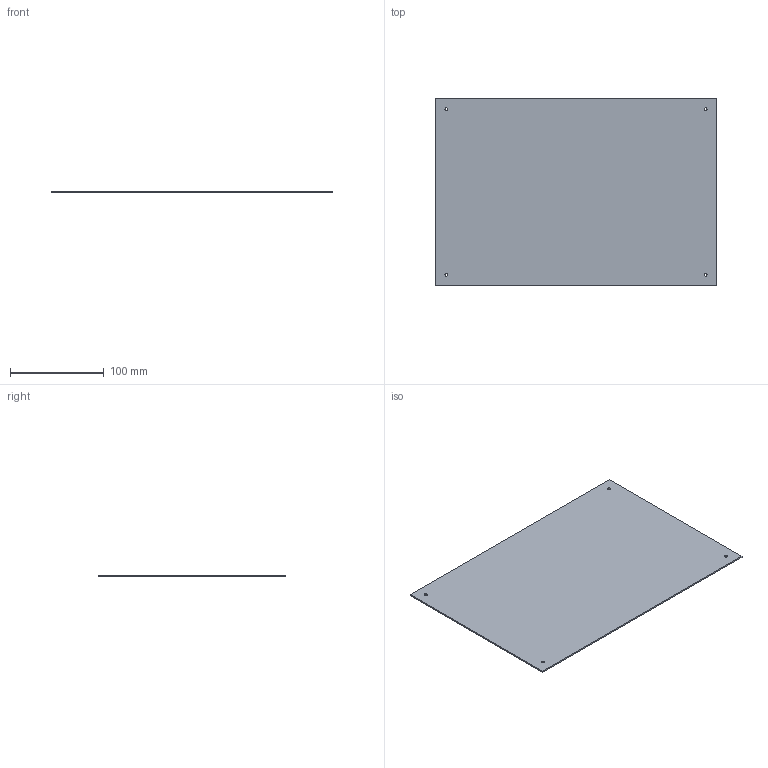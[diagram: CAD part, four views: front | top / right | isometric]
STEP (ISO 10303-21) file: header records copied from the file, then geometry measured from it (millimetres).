
FILE_DESCRIPTION(('KiCad electronic assembly'),'2;1');
FILE_NAME('board.step','2026-08-09T15:51:06',('Pcbnew'),('Kicad'), 'Open CASCADE STEP processor 7.9','KiCad to STEP converter','Unknown' );
FILE_SCHEMA(('AUTOMOTIVE_DESIGN { 1 0 10303 214 1 1 1 1 }'));
Length unit declared in the file: millimetre
Products named in the file (2): board 1; student_14_5_PCB
Assembly tree (1 placements, depth 2):
  board 1
    student_14_5_PCB
Bounding box: 300 x 200 x 1.51 mm (x, y, z)
Volume: 90551.4 mm3; surface area: 121506.4 mm2
Topology: 1 solids, 1 shells, 10 faces, 24 edges, 16 vertices
Faces by surface type: plane 6, cylinder 4
Full cylindrical faces by diameter (mm): 3.2 x4
Entity records: 349 total; most frequent: DIRECTION 56, CARTESIAN_POINT 52, ORIENTED_EDGE 48, EDGE_CURVE 24, AXIS2_PLACEMENT_3D 20, FACE_BOUND 18, EDGE_LOOP 18, VERTEX_POINT 16
